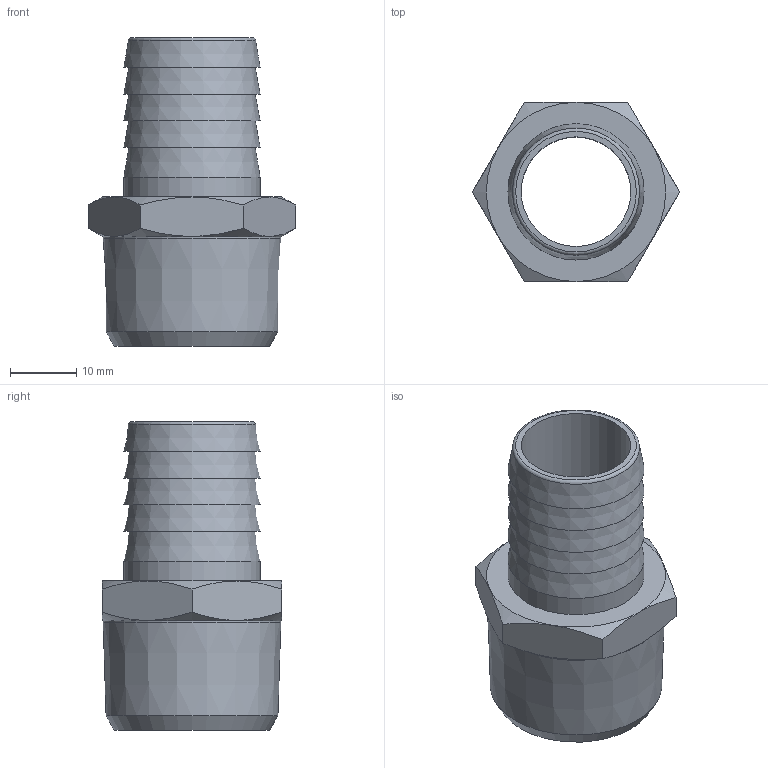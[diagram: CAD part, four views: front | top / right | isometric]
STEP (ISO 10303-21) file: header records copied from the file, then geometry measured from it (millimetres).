
FILE_DESCRIPTION(/* description */ (''),/* implementation_level */ '2;1');
FILE_NAME(/* name */ '30431_119_20_R34_29.11.16',/* time_stamp */ '2016-11-29T12:29:43+01:00',/* author */ (''),/* organization */ (''),/* preprocessor_version */ 'ST-DEVELOPER v16.5',/* originating_system */ 'HiCAD 2016 2102.0 Build 402',/* authorisation */ '');
FILE_SCHEMA (('AUTOMOTIVE_DESIGN { 1 0 10303 214 1 1 1 1 }'));
Length unit declared in the file: millimetre
Products named in the file (2): Root; 30431
Assembly tree (1 placements, depth 2):
  Root
    30431
Bounding box: 31.18 x 27 x 46.5 mm (x, y, z)
Volume: 8136.5 mm3; surface area: 6783.3 mm2
Topology: 1 solids, 1 shells, 34 faces, 68 edges, 42 vertices
Faces by surface type: cone 16, plane 13, cylinder 4, torus 1
Full cylindrical faces by diameter (mm): 16.5 x1, 20 x1, 20.5 x1, 26.753 x1
Entity records: 1352 total; most frequent: DIRECTION 168, CARTESIAN_POINT 127, PRESENTATION_STYLE_ASSIGNMENT 103, COLOUR_RGB 103, DRAUGHTING_PRE_DEFINED_CURVE_FONT 102, CURVE_STYLE 102, OVER_RIDING_STYLED_ITEM 102, ORIENTED_EDGE 102
